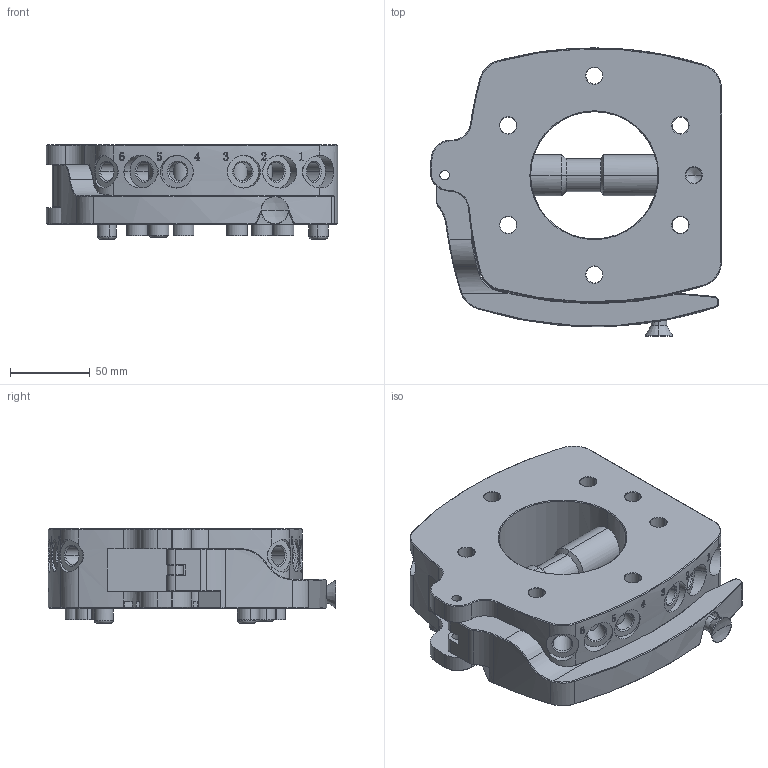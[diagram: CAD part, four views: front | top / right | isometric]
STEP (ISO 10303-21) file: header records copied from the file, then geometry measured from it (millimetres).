
FILE_DESCRIPTION (( 'STEP AP203' ), '1' );
FILE_NAME ('QC-R58.STEP', '2025-01-06T11:55:35', ( 'Windows User' ), ( 'P R C' ), 'SwSTEP 2.0', 'SolidWorks 2018', '' );
FILE_SCHEMA (( 'CONFIG_CONTROL_DESIGN' ));
Length unit declared in the file: millimetre
Products named in the file (1): QC-R58
Bounding box: 183 x 180.95 x 59.5 mm (x, y, z)
Surface area: 133502.4 mm2 (no closed solid volume)
Topology: 0 solids, 6 shells, 612 faces, 1606 edges, 1064 vertices
Faces by surface type: cylinder 251, cone 174, plane 163, bspline 12, torus 8, sphere 4
Entity records: 27631 total; most frequent: CARTESIAN_POINT 12506, ORIENTED_EDGE 3170, DIRECTION 3091, EDGE_CURVE 1588, AXIS2_PLACEMENT_3D 1209, VERTEX_POINT 1064, EDGE_LOOP 722, LINE 673
